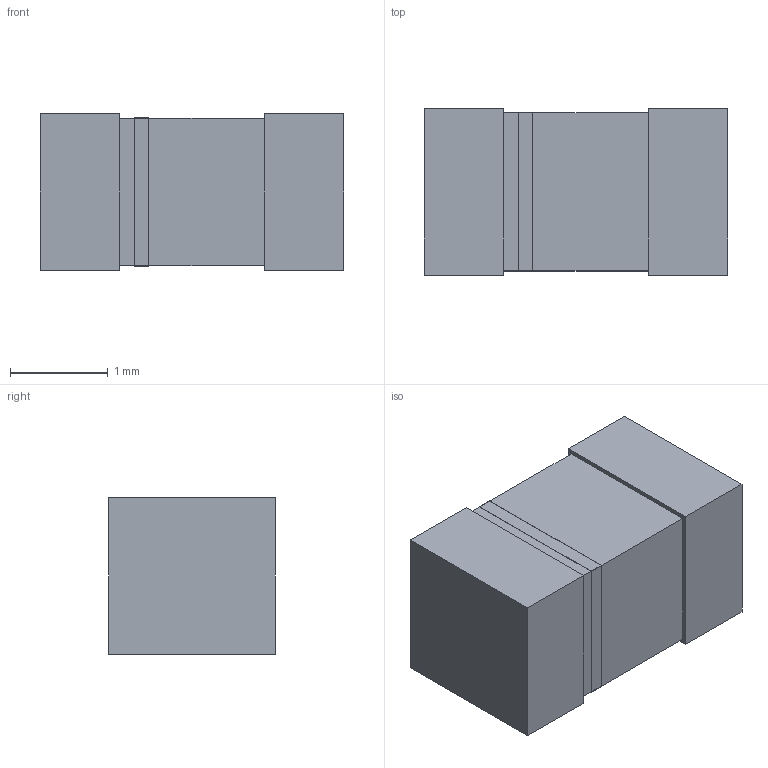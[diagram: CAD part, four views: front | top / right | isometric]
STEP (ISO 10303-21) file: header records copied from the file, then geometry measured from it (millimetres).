
FILE_DESCRIPTION(('STEP AP214'),'1');
FILE_NAME('PT11-21CL41TR8_EVE','2025-05-19T03:10:41',(''),(''),'','','');
FILE_SCHEMA(('AUTOMOTIVE_DESIGN'));
Length unit declared in the file: millimetre
Products named in the file (1): product
Bounding box: 3.1 x 1.7 x 1.6 mm (x, y, z)
Volume: 8 mm3; surface area: 37.6 mm2
Topology: 4 solids, 4 shells, 30 faces, 64 edges, 40 vertices
Faces by surface type: plane 30
Entity records: 916 total; most frequent: ORIENTED_EDGE 128, DIRECTION 126, CARTESIAN_POINT 71, EDGE_CURVE 64, LINE 64, VECTOR 64, VERTEX_POINT 40, AXIS2_PLACEMENT_3D 31
